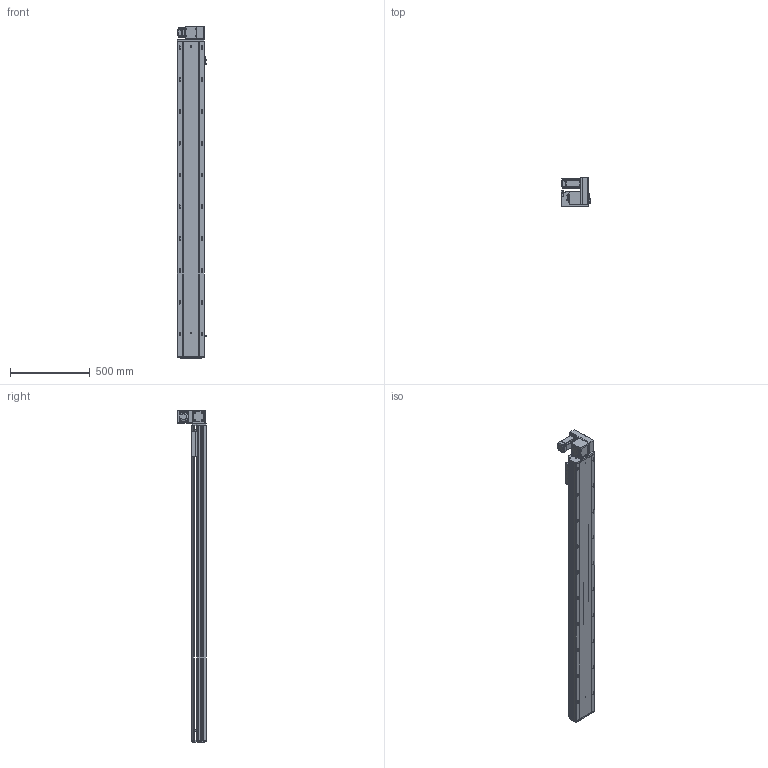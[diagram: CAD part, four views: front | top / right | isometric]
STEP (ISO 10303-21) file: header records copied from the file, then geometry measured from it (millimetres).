
FILE_DESCRIPTION (( 'STEP AP203' ), '1' );
FILE_NAME ('RY170-T-300-UR-P400W.SLDASM_1700.step', '2021-03-01T09:28:38', ( '盈信电脑' ), ( '东莞市道滘镇水果街19号' ), 'SwSTEP 2.0', 'SolidWorks 2012', '' );
FILE_SCHEMA (( 'CONFIG_CONTROL_DESIGN' ));
Length unit declared in the file: millimetre
Products named in the file (18): RY170-T-300-UR-P400W.SLDASM_1700; 15; 滅袉蝶18-10; RY170-T蹟翐M4; RY170-T肮祭謫裔啣; RY120-T主同步轮轴承压盖; RY170-T肮祭湍揤踡輸1; RY170同步轮电机安装板(400W); RY170-T肮祭湍揤踡輸2; RY170肮祭謫萇儂欶; RY170外置感应片(200共用）; RY170翋肮祭謫釱; RY170肮祭謫ヶ裔啣; RY170綴裔啣; RY170肮祭湍臏賑輸; 覜茼ん672; RY170-T-300肮祭謫倰第裔啣-DR_1700; RY170-T-300肮祭謫倰第菁釱-DR_1700
Assembly tree (22 placements, depth 2):
  RY170-T-300-UR-P400W.SLDASM_1700
    RY170-T-300肮祭謫倰第菁釱-DR_1700
    RY170肮祭湍臏賑輸
    RY170-T-300肮祭謫倰第裔啣-DR_1700
    RY170綴裔啣
    覜茼ん672  x3
    RY170外置感应片(200共用）
    RY170肮祭謫ヶ裔啣
    RY170翋肮祭謫釱
    RY170同步轮电机安装板(400W)
    RY170肮祭謫萇儂欶
    RY170-T肮祭湍揤踡輸1  x2
    RY170-T肮祭湍揤踡輸2  x2
    RY120-T主同步轮轴承压盖
    RY170-T肮祭謫裔啣
    RY170-T蹟翐M4
    滅袉蝶18-10  x2
    15
Bounding box: 183.7 x 182 x 2088 mm (x, y, z)
Volume: 9838654.6 mm3; surface area: 3377193.9 mm2
Topology: 22 solids, 22 shells, 2916 faces, 8138 edges, 5197 vertices
Faces by surface type: cylinder 1336, plane 1266, cone 284, bspline 30
Entity records: 87896 total; most frequent: CARTESIAN_POINT 20017, ORIENTED_EDGE 13888, DIRECTION 13604, EDGE_CURVE 6944, AXIS2_PLACEMENT_3D 4814, VERTEX_POINT 4553, LINE 3976, VECTOR 3976
